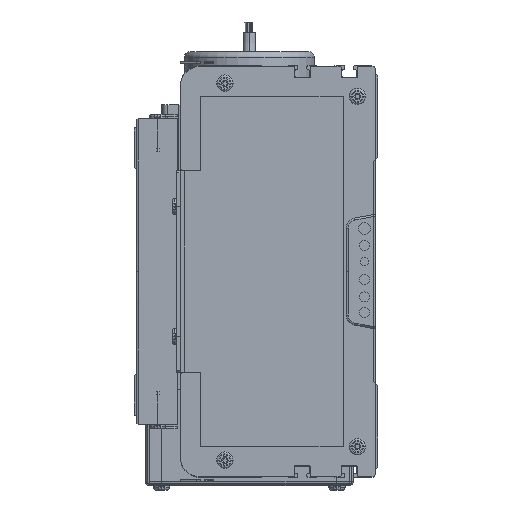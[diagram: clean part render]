
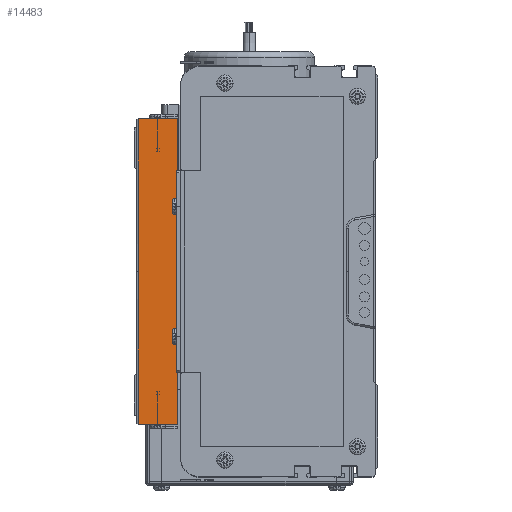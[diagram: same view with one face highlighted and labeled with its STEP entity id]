
A CAD part, left-side view. The second image highlights one B-rep face of the part: STEP entity #14483.
In plain terms, the highlighted planar face has unit normal (-1, 0, 0).
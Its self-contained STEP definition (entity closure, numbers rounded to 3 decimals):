
#13622 = VERTEX_POINT ( 'NONE', #48745 ) ;
#13656 = EDGE_CURVE ( 'NONE', #13666, #13688, #48801, .T. ) ;
#13666 = VERTEX_POINT ( 'NONE', #48791 ) ;
#13688 = VERTEX_POINT ( 'NONE', #48767 ) ;
#13724 = EDGE_CURVE ( 'NONE', #13622, #13688, #48863, .T. ) ;
#14159 = ORIENTED_EDGE ( 'NONE', *, *, #14630, .T. ) ;
#14274 = ORIENTED_EDGE ( 'NONE', *, *, #13656, .T. ) ;
#14300 = EDGE_LOOP ( 'NONE', ( #14490, #14159, #14520, #14492, #14274 ) ) ;
#14367 = VERTEX_POINT ( 'NONE', #47435 ) ;
#14413 = EDGE_CURVE ( 'NONE', #14367, #13666, #47554, .T. ) ;
#14435 = EDGE_CURVE ( 'NONE', #14518, #14367, #47763, .T. ) ;
#14483 = ADVANCED_FACE ( 'NONE', ( #47810 ), #47821, .F. ) ;
#14490 = ORIENTED_EDGE ( 'NONE', *, *, #13724, .F. ) ;
#14492 = ORIENTED_EDGE ( 'NONE', *, *, #14413, .T. ) ;
#14518 = VERTEX_POINT ( 'NONE', #47859 ) ;
#14520 = ORIENTED_EDGE ( 'NONE', *, *, #14435, .T. ) ;
#14630 = EDGE_CURVE ( 'NONE', #13622, #14518, #47973, .T. ) ;
#47435 = CARTESIAN_POINT ( 'NONE',  ( 0., 19., -75. ) ) ;
#47490 = DIRECTION ( 'NONE',  ( 0., -1., 0. ) ) ;
#47506 = VECTOR ( 'NONE', #47490, 1000. ) ;
#47537 = CARTESIAN_POINT ( 'NONE',  ( 0., 20., -75. ) ) ;
#47554 = LINE ( 'NONE', #47537, #47506 ) ;
#47762 = CARTESIAN_POINT ( 'NONE',  ( 0., 19., 0. ) ) ;
#47763 = LINE ( 'NONE', #47762, #47835 ) ;
#47810 = FACE_OUTER_BOUND ( 'NONE', #14300, .T. ) ;
#47821 = PLANE ( 'NONE',  #47879 ) ;
#47834 = DIRECTION ( 'NONE',  ( 0., 0., -1. ) ) ;
#47835 = VECTOR ( 'NONE', #47834, 1000. ) ;
#47859 = CARTESIAN_POINT ( 'NONE',  ( 0., 19., 0. ) ) ;
#47876 = DIRECTION ( 'NONE',  ( 0., 0., -1. ) ) ;
#47877 = DIRECTION ( 'NONE',  ( 1., 0., 0. ) ) ;
#47878 = CARTESIAN_POINT ( 'NONE',  ( 0., 20., 0. ) ) ;
#47879 = AXIS2_PLACEMENT_3D ( 'NONE', #47878, #47877, #47876 ) ;
#47970 = DIRECTION ( 'NONE',  ( 0., 0., -1. ) ) ;
#47971 = VECTOR ( 'NONE', #47970, 1000. ) ;
#47972 = CARTESIAN_POINT ( 'NONE',  ( 0., 19., 0. ) ) ;
#47973 = LINE ( 'NONE', #47972, #47971 ) ;
#48745 = CARTESIAN_POINT ( 'NONE',  ( 0., 19., 75. ) ) ;
#48767 = CARTESIAN_POINT ( 'NONE',  ( 0., 0., 75. ) ) ;
#48791 = CARTESIAN_POINT ( 'NONE',  ( 0., 0., -75. ) ) ;
#48797 = DIRECTION ( 'NONE',  ( 0., 0., 1. ) ) ;
#48799 = VECTOR ( 'NONE', #48797, 1000. ) ;
#48800 = CARTESIAN_POINT ( 'NONE',  ( 0., 0., 0. ) ) ;
#48801 = LINE ( 'NONE', #48800, #48799 ) ;
#48844 = DIRECTION ( 'NONE',  ( 0., -1., 0. ) ) ;
#48845 = VECTOR ( 'NONE', #48844, 1000. ) ;
#48862 = CARTESIAN_POINT ( 'NONE',  ( 0., 20., 75. ) ) ;
#48863 = LINE ( 'NONE', #48862, #48845 ) ;
